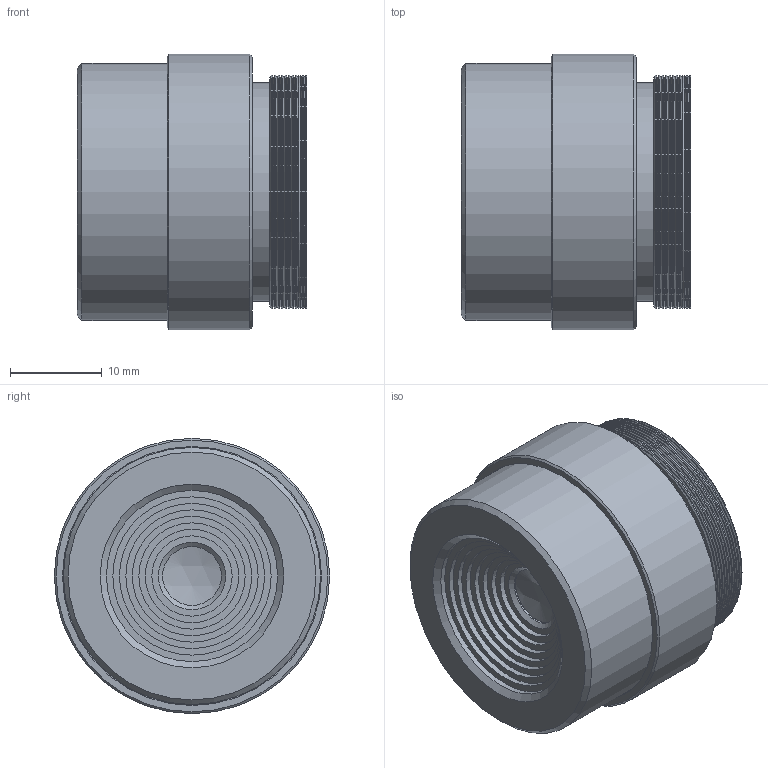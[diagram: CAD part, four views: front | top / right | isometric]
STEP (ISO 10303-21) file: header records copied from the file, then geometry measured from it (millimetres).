
FILE_DESCRIPTION(/* description */ ('TCSL 0618 5MP'),/* implementation_level */ '2;1');
FILE_NAME(/* name */ 'D:\1_Konstruktion\1_KUNDEN\TIS\199-15_Objektive_Step-Dateien für Endkundem\CS-Objektive (3x)\Lens_TCSL 0618 5MP.stp',/* time_stamp */ '2016-01-28T20:04:26+01:00',/* author */ ('khw'),/* organization */ (''),/* preprocessor_version */ 'ST-DEVELOPER v15.2',/* originating_system */ 'Autodesk Inventor 2014',/* authorisation */ '6767,5 mm^3');
FILE_SCHEMA (('AUTOMOTIVE_DESIGN { 1 0 10303 214 3 1 1 }'));
Length unit declared in the file: millimetre
Products named in the file (1): Lens_TCSL 0618 5MP
Bounding box: 24.97 x 30 x 30 mm (x, y, z)
Volume: 11901 mm3; surface area: 6051.5 mm2
Topology: 2 solids, 2 shells, 76 faces, 154 edges, 99 vertices
Faces by surface type: cone 28, cylinder 27, plane 19, sphere 2
Full cylindrical faces by diameter (mm): 6.4 x1, 6.668 x1, 8.756 x1, 10.169 x1, 11.583 x1, 12.996 x1, 14.409 x1, 14.542 x1, 15.823 x1, 17.236 x1, 18 x1, 18.65 x1, 23.8 x1, 25.328 x3, 25.4 x8, 28 x1, 28.2 x1, 30 x1
Entity records: 1610 total; most frequent: DIRECTION 302, CARTESIAN_POINT 225, AXIS2_PLACEMENT_3D 151, EDGE_LOOP 148, ORIENTED_EDGE 148, STYLED_ITEM 78, FACE_OUTER_BOUND 76, ADVANCED_FACE 76
